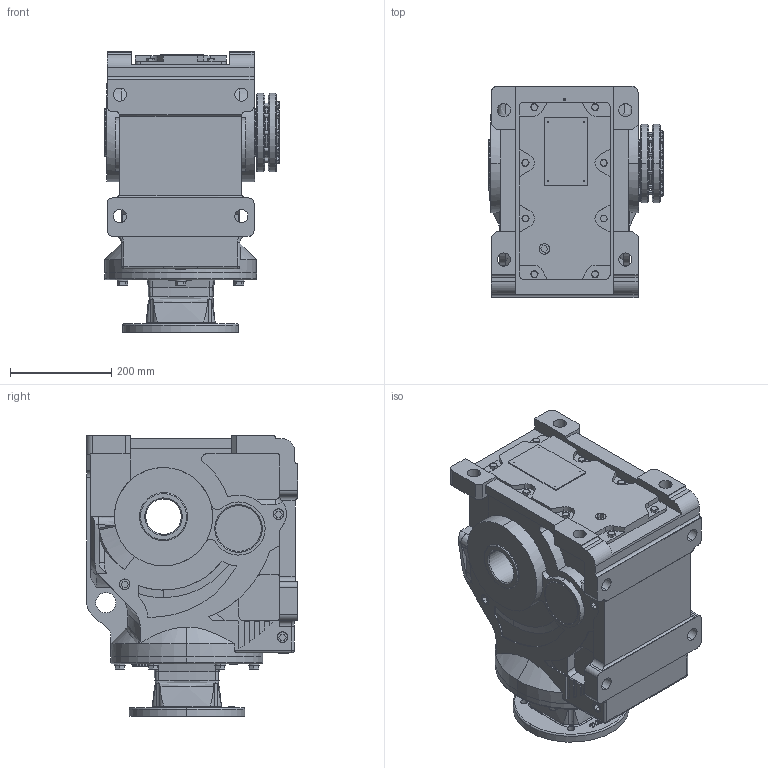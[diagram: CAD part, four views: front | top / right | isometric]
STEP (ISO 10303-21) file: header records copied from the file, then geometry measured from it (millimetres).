
FILE_DESCRIPTION (( 'STEP AP203' ), '1' );
FILE_NAME ('KHN97-213TC-A-POWER LOCK.STEP', '2020-12-04T06:19:49', ( 'Microsoft' ), ( 'Microsoft' ), 'SwSTEP 2.0', 'SolidWorks 2012', '' );
FILE_SCHEMA (( 'CONFIG_CONTROL_DESIGN' ));
Products named in the file (1): KHN97-213TC-A-POWER LOCK
Bounding box: 345 x 417.5 x 554.5 mm (x, y, z)
Volume: 41504425.5 mm3; surface area: 1476780.7 mm2
Topology: 2 solids, 26 shells, 1773 faces, 4451 edges, 2820 vertices
Faces by surface type: plane 760, cylinder 486, cone 337, bspline 150, torus 38, sphere 2
Entity records: 64374 total; most frequent: CARTESIAN_POINT 22507, ORIENTED_EDGE 8798, DIRECTION 8449, EDGE_CURVE 4399, AXIS2_PLACEMENT_3D 3078, VERTEX_POINT 2820, VECTOR 2293, LINE 2293
